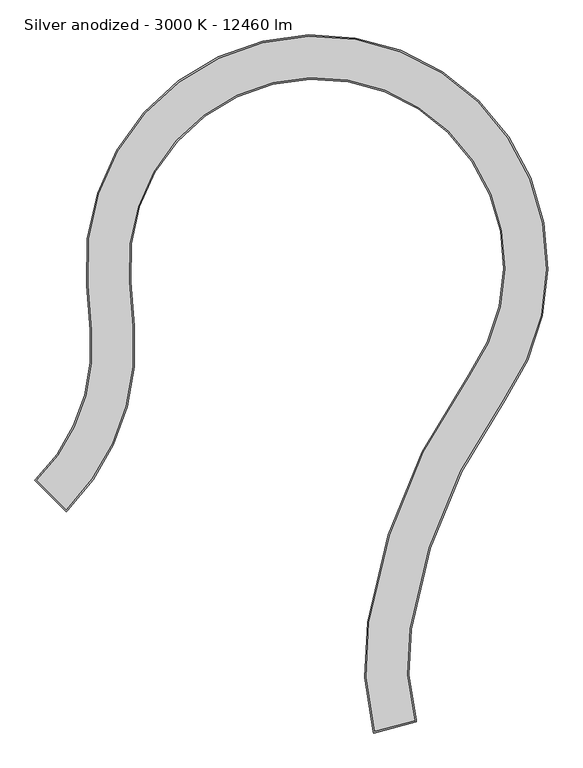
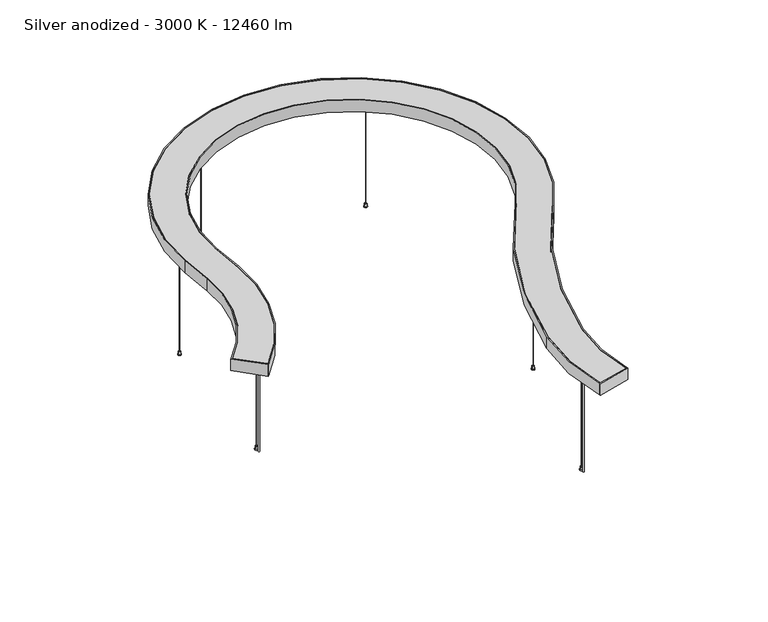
"""IFC4 building model written with IfcOpenShell, lengths in millimetres: light fixture geometry, KLUŚ - MIFOR - MI-SNAKE-05 : Silver anodized - 3000 K - 12460 lm."""

from ifc_helpers import new_model, si_unit, point, frame, frame_2d, origin, origin_with_axes, origin_2d, place, context, project, spatial, polyline, circle_curve, trimmed, segment, composite_curve, outline, extrude, source, transform, mapped, element, save


def silver_anodized_3000_k_12460_lm_a8d2e16b(model_context):
    return source(origin(), model_context, "Body", "SweptSolid", [
        extrude(outline(composite_curve([segment(trimmed(circle_curve(frame_2d((-781.0905266, -618.5597251)), 1.75), [point((-779.3405266, -618.5597251))], [point((-782.8405266, -618.5597251))], False, "CARTESIAN"), True, "CONTINUOUS"), segment(trimmed(circle_curve(frame_2d((-781.0905266, -618.5597251)), 1.75), [point((-782.8405266, -618.5597251))], [point((-779.3405266, -618.5597251))], False, "CARTESIAN"), True, "CONTINUOUS")], self_intersect=False)), frame((0.0, 0.0, 500.5), z_axis=(0.0, 0.0, 1.0), x_axis=(1.0, 0.0, 0.0)), (0.0, 0.0, 1.0), 3.5),
        extrude(outline(composite_curve([segment(trimmed(circle_curve(frame_2d((-719.5118859, 81.4826836)), 1.75), [point((-717.7618859, 81.4826836))], [point((-721.2618859, 81.4826836))], False, "CARTESIAN"), True, "CONTINUOUS"), segment(trimmed(circle_curve(frame_2d((-719.5118859, 81.4826836)), 1.75), [point((-721.2618859, 81.4826836))], [point((-717.7618859, 81.4826836))], False, "CARTESIAN"), True, "CONTINUOUS")], self_intersect=False)), frame((0.0, 0.0, 500.5), z_axis=(0.0, 0.0, 1.0), x_axis=(1.0, 0.0, 0.0)), (0.0, 0.0, 1.0), 3.5),
        extrude(outline(composite_curve([segment(trimmed(circle_curve(frame_2d((-298.5396576, 644.1848126)), 1.75), [point((-296.7896576, 644.1848126))], [point((-300.2896576, 644.1848126))], False, "CARTESIAN"), True, "CONTINUOUS"), segment(trimmed(circle_curve(frame_2d((-298.5396576, 644.1848126)), 1.75), [point((-300.2896576, 644.1848126))], [point((-296.7896576, 644.1848126))], False, "CARTESIAN"), True, "CONTINUOUS")], self_intersect=False)), frame((0.0, 0.0, 500.5), z_axis=(0.0, 0.0, 1.0), x_axis=(1.0, 0.0, 0.0)), (0.0, 0.0, 1.0), 3.5),
        extrude(outline(composite_curve([segment(trimmed(circle_curve(frame_2d((401.7435349, 585.4076632)), 1.75), [point((403.4935349, 585.4076632))], [point((399.9935349, 585.4076632))], False, "CARTESIAN"), True, "CONTINUOUS"), segment(trimmed(circle_curve(frame_2d((401.7435349, 585.4076632)), 1.75), [point((399.9935349, 585.4076632))], [point((403.4935349, 585.4076632))], False, "CARTESIAN"), True, "CONTINUOUS")], self_intersect=False)), frame((0.0, 0.0, 500.5), z_axis=(0.0, 0.0, 1.0), x_axis=(1.0, 0.0, 0.0)), (0.0, 0.0, 1.0), 3.5),
        extrude(outline(composite_curve([segment(trimmed(circle_curve(frame_2d((708.4509127, -46.8754122)), 1.75), [point((710.2009127, -46.8754122))], [point((706.7009127, -46.8754122))], False, "CARTESIAN"), True, "CONTINUOUS"), segment(trimmed(circle_curve(frame_2d((708.4509127, -46.8754122)), 1.75), [point((706.7009127, -46.8754122))], [point((710.2009127, -46.8754122))], False, "CARTESIAN"), True, "CONTINUOUS")], self_intersect=False)), frame((0.0, 0.0, 500.5), z_axis=(0.0, 0.0, 1.0), x_axis=(1.0, 0.0, 0.0)), (0.0, 0.0, 1.0), 3.5),
        extrude(outline(composite_curve([segment(trimmed(circle_curve(frame_2d((414.6132011, -685.2410615)), 1.75), [point((416.3632011, -685.2410615))], [point((412.8632011, -685.2410615))], False, "CARTESIAN"), True, "CONTINUOUS"), segment(trimmed(circle_curve(frame_2d((414.6132011, -685.2410615)), 1.75), [point((412.8632011, -685.2410615))], [point((416.3632011, -685.2410615))], False, "CARTESIAN"), True, "CONTINUOUS")], self_intersect=False)), frame((0.0, 0.0, 500.5), z_axis=(0.0, 0.0, 1.0), x_axis=(1.0, 0.0, 0.0)), (0.0, 0.0, 1.0), 3.5),
        extrude(outline(composite_curve([segment(trimmed(circle_curve(frame_2d((236.636067, -1365.0759259)), 1.75), [point((238.386067, -1365.0759259))], [point((234.886067, -1365.0759259))], False, "CARTESIAN"), True, "CONTINUOUS"), segment(trimmed(circle_curve(frame_2d((236.636067, -1365.0759259)), 1.75), [point((234.886067, -1365.0759259))], [point((238.386067, -1365.0759259))], False, "CARTESIAN"), True, "CONTINUOUS")], self_intersect=False)), frame((0.0, 0.0, 500.5), z_axis=(0.0, 0.0, 1.0), x_axis=(1.0, 0.0, 0.0)), (0.0, 0.0, 1.0), 3.5),
        extrude(outline(composite_curve([segment(trimmed(circle_curve(frame_2d((-781.0905266, -618.5597251)), 5.0), [point((-776.0905266, -618.5597251))], [point((-786.0905266, -618.5597251))], False, "CARTESIAN"), True, "CONTINUOUS"), segment(trimmed(circle_curve(frame_2d((-781.0905266, -618.5597251)), 5.0), [point((-786.0905266, -618.5597251))], [point((-776.0905266, -618.5597251))], False, "CARTESIAN"), True, "CONTINUOUS")], self_intersect=False)), frame((0.0, 0.0, 3.0), z_axis=(0.0, 0.0, 1.0), x_axis=(1.0, 0.0, 0.0)), (0.0, 0.0, 1.0), 12.0),
        extrude(outline(composite_curve([segment(trimmed(circle_curve(frame_2d((-719.5118859, 81.4826836)), 5.0), [point((-714.5118859, 81.4826836))], [point((-724.5118859, 81.4826836))], False, "CARTESIAN"), True, "CONTINUOUS"), segment(trimmed(circle_curve(frame_2d((-719.5118859, 81.4826836)), 5.0), [point((-724.5118859, 81.4826836))], [point((-714.5118859, 81.4826836))], False, "CARTESIAN"), True, "CONTINUOUS")], self_intersect=False)), frame((0.0, 0.0, 3.0), z_axis=(0.0, 0.0, 1.0), x_axis=(1.0, 0.0, 0.0)), (0.0, 0.0, 1.0), 12.0),
        extrude(outline(composite_curve([segment(trimmed(circle_curve(frame_2d((-298.5396576, 644.1848126)), 5.0), [point((-293.5396576, 644.1848126))], [point((-303.5396576, 644.1848126))], False, "CARTESIAN"), True, "CONTINUOUS"), segment(trimmed(circle_curve(frame_2d((-298.5396576, 644.1848126)), 5.0), [point((-303.5396576, 644.1848126))], [point((-293.5396576, 644.1848126))], False, "CARTESIAN"), True, "CONTINUOUS")], self_intersect=False)), frame((0.0, 0.0, 3.0), z_axis=(0.0, 0.0, 1.0), x_axis=(1.0, 0.0, 0.0)), (0.0, 0.0, 1.0), 12.0),
        extrude(outline(composite_curve([segment(trimmed(circle_curve(frame_2d((401.7435349, 585.4076632)), 5.0), [point((406.7435349, 585.4076632))], [point((396.7435349, 585.4076632))], False, "CARTESIAN"), True, "CONTINUOUS"), segment(trimmed(circle_curve(frame_2d((401.7435349, 585.4076632)), 5.0), [point((396.7435349, 585.4076632))], [point((406.7435349, 585.4076632))], False, "CARTESIAN"), True, "CONTINUOUS")], self_intersect=False)), frame((0.0, 0.0, 3.0), z_axis=(0.0, 0.0, 1.0), x_axis=(1.0, 0.0, 0.0)), (0.0, 0.0, 1.0), 12.0),
        extrude(outline(composite_curve([segment(trimmed(circle_curve(frame_2d((708.4509127, -46.8754122)), 5.0), [point((713.4509127, -46.8754122))], [point((703.4509127, -46.8754122))], False, "CARTESIAN"), True, "CONTINUOUS"), segment(trimmed(circle_curve(frame_2d((708.4509127, -46.8754122)), 5.0), [point((703.4509127, -46.8754122))], [point((713.4509127, -46.8754122))], False, "CARTESIAN"), True, "CONTINUOUS")], self_intersect=False)), frame((0.0, 0.0, 3.0), z_axis=(0.0, 0.0, 1.0), x_axis=(1.0, 0.0, 0.0)), (0.0, 0.0, 1.0), 12.0),
        extrude(outline(composite_curve([segment(trimmed(circle_curve(frame_2d((414.6132011, -685.2410615)), 5.0), [point((419.6132011, -685.2410615))], [point((409.6132011, -685.2410615))], False, "CARTESIAN"), True, "CONTINUOUS"), segment(trimmed(circle_curve(frame_2d((414.6132011, -685.2410615)), 5.0), [point((409.6132011, -685.2410615))], [point((419.6132011, -685.2410615))], False, "CARTESIAN"), True, "CONTINUOUS")], self_intersect=False)), frame((0.0, 0.0, 3.0), z_axis=(0.0, 0.0, 1.0), x_axis=(1.0, 0.0, 0.0)), (0.0, 0.0, 1.0), 12.0),
        extrude(outline(composite_curve([segment(trimmed(circle_curve(frame_2d((236.636067, -1365.0759259)), 5.0), [point((241.636067, -1365.0759259))], [point((231.636067, -1365.0759259))], False, "CARTESIAN"), True, "CONTINUOUS"), segment(trimmed(circle_curve(frame_2d((236.636067, -1365.0759259)), 5.0), [point((231.636067, -1365.0759259))], [point((241.636067, -1365.0759259))], False, "CARTESIAN"), True, "CONTINUOUS")], self_intersect=False)), frame((0.0, 0.0, 3.0), z_axis=(0.0, 0.0, 1.0), x_axis=(1.0, 0.0, 0.0)), (0.0, 0.0, 1.0), 12.0),
        extrude(outline(composite_curve([segment(trimmed(circle_curve(frame_2d((-779.194815, -636.1125112)), 2.5), [point((-776.694815, -636.1125112))], [point((-781.694815, -636.1125112))], False, "CARTESIAN"), True, "CONTINUOUS"), segment(trimmed(circle_curve(frame_2d((-779.194815, -636.1125112)), 2.5), [point((-781.694815, -636.1125112))], [point((-776.694815, -636.1125112))], False, "CARTESIAN"), True, "CONTINUOUS")], self_intersect=False)), origin_with_axes(), (0.0, 0.0, 1.0), 516.0),
        extrude(outline(composite_curve([segment(trimmed(circle_curve(frame_2d((237.1731552, -1380.5712872)), 2.5), [point((239.6731552, -1380.5712872))], [point((234.6731552, -1380.5712872))], False, "CARTESIAN"), True, "CONTINUOUS"), segment(trimmed(circle_curve(frame_2d((237.1731552, -1380.5712872)), 2.5), [point((234.6731552, -1380.5712872))], [point((239.6731552, -1380.5712872))], False, "CARTESIAN"), True, "CONTINUOUS")], self_intersect=False)), origin_with_axes(), (0.0, 0.0, 1.0), 516.0),
        extrude(outline(composite_curve([segment(trimmed(circle_curve(origin_2d(), 780.0), [point((-777.1855644, -66.2011969))], [point((633.4228309, -455.1653736))], False, "CARTESIAN"), True, "CONTINUOUS"), segment(trimmed(circle_curve(frame_2d((2099.2282279, -1508.4647318)), 1805.0), [point((633.4228309, -455.1653736))], [point((315.3433707, -1233.1833919))], True, "CARTESIAN"), True, "CONTINUOUS"), segment(trimmed(circle_curve(frame_2d((1064.5004473, -1348.7900483)), 758.024554), [point((315.3433707, -1233.1833919))], [point((332.3049537, -1544.9812396))], True, "CARTESIAN"), True, "CONTINUOUS"), segment(polyline([(332.3049537, -1544.9812396), (197.075338, -1581.2159059)]), True, "CONTINUOUS"), segment(trimmed(circle_curve(frame_2d((1064.5004473, -1348.7900483)), 898.024554), [point((197.075338, -1581.2159059))], [point((176.9811103, -1211.8319306))], False, "CARTESIAN"), True, "CONTINUOUS"), segment(trimmed(circle_curve(frame_2d((2099.2282279, -1508.4647318)), 1945.0), [point((176.9811103, -1211.8319306))], [point((519.7315535, -373.4690245))], False, "CARTESIAN"), True, "CONTINUOUS"), segment(trimmed(circle_curve(origin_2d(), 640.0), [point((519.7315535, -373.4690245))], [point((-637.6907195, -54.3189308))], True, "CARTESIAN"), True, "CONTINUOUS"), segment(polyline([(-637.6907195, -54.3189308), (-624.7565051, -206.1633874)]), True, "CONTINUOUS"), segment(trimmed(circle_curve(frame_2d((-1406.9240282, -272.788951)), 785.0), [point((-624.7565051, -206.1633874))], [point((-851.845205, -827.8677742))], False, "CARTESIAN"), True, "CONTINUOUS"), segment(polyline([(-851.845205, -827.8677742), (-950.8401543, -728.8728248)]), True, "CONTINUOUS"), segment(trimmed(circle_curve(frame_2d((-1406.9240282, -272.788951)), 645.0), [point((-950.8401543, -728.8728248))], [point((-764.2513499, -218.0456535))], True, "CARTESIAN"), True, "CONTINUOUS"), segment(polyline([(-764.2513499, -218.0456535), (-777.1855644, -66.2011969)]), True, "CONTINUOUS")], self_intersect=False)), frame((0.0, 0.0, 516.0), z_axis=(0.0, 0.0, 1.0), x_axis=(1.0, 0.0, 0.0)), (0.0, 0.0, 1.0), 2.0),
        extrude(outline(composite_curve([segment(trimmed(circle_curve(origin_2d(), 780.0), [point((-777.1855644, -66.2011969))], [point((633.4228309, -455.1653736))], False, "CARTESIAN"), True, "CONTINUOUS"), segment(trimmed(circle_curve(frame_2d((2099.2282279, -1508.4647318)), 1805.0), [point((633.4228309, -455.1653736))], [point((315.3433707, -1233.1833919))], True, "CARTESIAN"), True, "CONTINUOUS"), segment(trimmed(circle_curve(frame_2d((1064.5004473, -1348.7900483)), 758.024554), [point((315.3433707, -1233.1833919))], [point((332.3049537, -1544.9812396))], True, "CARTESIAN"), True, "CONTINUOUS"), segment(polyline([(332.3049537, -1544.9812396), (197.075338, -1581.2159059)]), True, "CONTINUOUS"), segment(trimmed(circle_curve(frame_2d((1064.5004473, -1348.7900483)), 898.024554), [point((197.075338, -1581.2159059))], [point((176.9811103, -1211.8319306))], False, "CARTESIAN"), True, "CONTINUOUS"), segment(trimmed(circle_curve(frame_2d((2099.2282279, -1508.4647318)), 1945.0), [point((176.9811103, -1211.8319306))], [point((519.7315535, -373.4690245))], False, "CARTESIAN"), True, "CONTINUOUS"), segment(trimmed(circle_curve(origin_2d(), 640.0), [point((519.7315535, -373.4690245))], [point((-637.6907195, -54.3189308))], True, "CARTESIAN"), True, "CONTINUOUS"), segment(polyline([(-637.6907195, -54.3189308), (-624.7565051, -206.1633874)]), True, "CONTINUOUS"), segment(trimmed(circle_curve(frame_2d((-1406.9240282, -272.788951)), 785.0), [point((-624.7565051, -206.1633874))], [point((-851.845205, -827.8677742))], False, "CARTESIAN"), True, "CONTINUOUS"), segment(polyline([(-851.845205, -827.8677742), (-950.8401543, -728.8728248)]), True, "CONTINUOUS"), segment(trimmed(circle_curve(frame_2d((-1406.9240282, -272.788951)), 645.0), [point((-950.8401543, -728.8728248))], [point((-764.2513499, -218.0456535))], True, "CARTESIAN"), True, "CONTINUOUS"), segment(polyline([(-764.2513499, -218.0456535), (-777.1855644, -66.2011969)]), True, "CONTINUOUS")], self_intersect=False)), frame((0.0, 0.0, 551.0), z_axis=(0.0, 0.0, 1.0), x_axis=(1.0, 0.0, 0.0)), (0.0, 0.0, 1.0), 2.0),
        extrude(outline(composite_curve([segment(trimmed(circle_curve(origin_2d(), 785.0), [point((-782.1675232, -66.6255635))], [point((637.4832336, -458.0831004))], False, "CARTESIAN"), True, "CONTINUOUS"), segment(trimmed(circle_curve(frame_2d((2099.2282279, -1508.4647318)), 1800.0), [point((637.4832336, -458.0831004))], [point((320.28488, -1233.945944))], True, "CARTESIAN"), True, "CONTINUOUS"), segment(trimmed(circle_curve(frame_2d((1064.5004473, -1348.7900483)), 753.024554), [point((320.28488, -1233.945944))], [point((337.1345828, -1543.6871443))], True, "CARTESIAN"), True, "CONTINUOUS"), segment(polyline([(337.1345828, -1543.6871443), (338.428678, -1548.5167735), (193.5398041, -1587.3396302), (192.2457088, -1582.5100011)]), True, "CONTINUOUS"), segment(trimmed(circle_curve(frame_2d((1064.5004473, -1348.7900483)), 903.024554), [point((192.2457088, -1582.5100011))], [point((172.039601, -1211.0693784))], False, "CARTESIAN"), True, "CONTINUOUS"), segment(trimmed(circle_curve(frame_2d((2099.2282279, -1508.4647318)), 1950.0), [point((172.039601, -1211.0693784))], [point((515.6711508, -370.5512977))], False, "CARTESIAN"), True, "CONTINUOUS"), segment(trimmed(circle_curve(origin_2d(), 635.0), [point((515.6711508, -370.5512977))], [point((-632.7087608, -53.8945641))], True, "CARTESIAN"), True, "CONTINUOUS"), segment(polyline([(-632.7087608, -53.8945641), (-619.7745463, -205.7390208)]), True, "CONTINUOUS"), segment(trimmed(circle_curve(frame_2d((-1406.9240282, -272.788951)), 790.0), [point((-619.7745463, -205.7390208))], [point((-848.3096711, -831.4033081))], False, "CARTESIAN"), True, "CONTINUOUS"), segment(polyline([(-848.3096711, -831.4033081), (-851.845205, -834.938842), (-957.9112222, -728.8728248), (-954.3756883, -725.3372909)]), True, "CONTINUOUS"), segment(trimmed(circle_curve(frame_2d((-1406.9240282, -272.788951)), 640.0), [point((-954.3756883, -725.3372909))], [point((-769.2333087, -218.4700202))], True, "CARTESIAN"), True, "CONTINUOUS"), segment(polyline([(-769.2333087, -218.4700202), (-782.1675232, -66.6255635)]), True, "CONTINUOUS")], self_intersect=False), holes=[composite_curve([segment(trimmed(circle_curve(frame_2d((-1406.9240282, -272.788951)), 785.0), [point((-851.845205, -827.8677742))], [point((-624.7565051, -206.1633874))], True, "CARTESIAN"), True, "CONTINUOUS"), segment(polyline([(-624.7565051, -206.1633874), (-637.6907195, -54.3189308)]), True, "CONTINUOUS"), segment(trimmed(circle_curve(origin_2d(), 640.0), [point((-637.6907195, -54.3189308))], [point((519.7315535, -373.4690245))], False, "CARTESIAN"), True, "CONTINUOUS"), segment(trimmed(circle_curve(frame_2d((2099.2282279, -1508.4647318)), 1945.0), [point((519.7315535, -373.4690245))], [point((176.9811103, -1211.8319306))], True, "CARTESIAN"), True, "CONTINUOUS"), segment(trimmed(circle_curve(frame_2d((1064.5004473, -1348.7900483)), 898.024554), [point((176.9811103, -1211.8319306))], [point((197.075338, -1581.2159059))], True, "CARTESIAN"), True, "CONTINUOUS"), segment(polyline([(197.075338, -1581.2159059), (332.3049537, -1544.9812396)]), True, "CONTINUOUS"), segment(trimmed(circle_curve(frame_2d((1064.5004473, -1348.7900483)), 758.024554), [point((332.3049537, -1544.9812396))], [point((315.3433707, -1233.1833919))], False, "CARTESIAN"), True, "CONTINUOUS"), segment(trimmed(circle_curve(frame_2d((2099.2282279, -1508.4647318)), 1805.0), [point((315.3433707, -1233.1833919))], [point((633.4228309, -455.1653736))], False, "CARTESIAN"), True, "CONTINUOUS"), segment(trimmed(circle_curve(origin_2d(), 780.0), [point((633.4228309, -455.1653736))], [point((-777.1855644, -66.2011969))], True, "CARTESIAN"), True, "CONTINUOUS"), segment(polyline([(-777.1855644, -66.2011969), (-764.2513499, -218.0456535)]), True, "CONTINUOUS"), segment(trimmed(circle_curve(frame_2d((-1406.9240282, -272.788951)), 645.0), [point((-764.2513499, -218.0456535))], [point((-950.8401543, -728.8728248))], False, "CARTESIAN"), True, "CONTINUOUS"), segment(polyline([(-950.8401543, -728.8728248), (-851.845205, -827.8677742)]), True, "CONTINUOUS")], self_intersect=False)]), frame((0.0, 0.0, 500.0), z_axis=(0.0, 0.0, 1.0), x_axis=(1.0, 0.0, 0.0)), (0.0, 0.0, 1.0), 55.0),
        extrude(outline(composite_curve([segment(trimmed(circle_curve(frame_2d((-781.0905266, -618.5597251)), 0.5), [point((-780.5905266, -618.5597251))], [point((-781.5905266, -618.5597251))], False, "CARTESIAN"), True, "CONTINUOUS"), segment(trimmed(circle_curve(frame_2d((-781.0905266, -618.5597251)), 0.5), [point((-781.5905266, -618.5597251))], [point((-780.5905266, -618.5597251))], False, "CARTESIAN"), True, "CONTINUOUS")], self_intersect=False)), frame((0.0, 0.0, 15.0), z_axis=(0.0, 0.0, 1.0), x_axis=(1.0, 0.0, 0.0)), (0.0, 0.0, 1.0), 485.5),
        extrude(outline(composite_curve([segment(trimmed(circle_curve(frame_2d((-719.5118859, 81.4826836)), 0.5), [point((-719.0118859, 81.4826836))], [point((-720.0118859, 81.4826836))], False, "CARTESIAN"), True, "CONTINUOUS"), segment(trimmed(circle_curve(frame_2d((-719.5118859, 81.4826836)), 0.5), [point((-720.0118859, 81.4826836))], [point((-719.0118859, 81.4826836))], False, "CARTESIAN"), True, "CONTINUOUS")], self_intersect=False)), frame((0.0, 0.0, 15.0), z_axis=(0.0, 0.0, 1.0), x_axis=(1.0, 0.0, 0.0)), (0.0, 0.0, 1.0), 485.5),
        extrude(outline(composite_curve([segment(trimmed(circle_curve(frame_2d((-298.5396576, 644.1848126)), 0.5), [point((-298.0396576, 644.1848126))], [point((-299.0396576, 644.1848126))], False, "CARTESIAN"), True, "CONTINUOUS"), segment(trimmed(circle_curve(frame_2d((-298.5396576, 644.1848126)), 0.5), [point((-299.0396576, 644.1848126))], [point((-298.0396576, 644.1848126))], False, "CARTESIAN"), True, "CONTINUOUS")], self_intersect=False)), frame((0.0, 0.0, 15.0), z_axis=(0.0, 0.0, 1.0), x_axis=(1.0, 0.0, 0.0)), (0.0, 0.0, 1.0), 485.5),
        extrude(outline(composite_curve([segment(trimmed(circle_curve(frame_2d((401.7435349, 585.4076632)), 0.5), [point((402.2435349, 585.4076632))], [point((401.2435349, 585.4076632))], False, "CARTESIAN"), True, "CONTINUOUS"), segment(trimmed(circle_curve(frame_2d((401.7435349, 585.4076632)), 0.5), [point((401.2435349, 585.4076632))], [point((402.2435349, 585.4076632))], False, "CARTESIAN"), True, "CONTINUOUS")], self_intersect=False)), frame((0.0, 0.0, 15.0), z_axis=(0.0, 0.0, 1.0), x_axis=(1.0, 0.0, 0.0)), (0.0, 0.0, 1.0), 485.5),
        extrude(outline(composite_curve([segment(trimmed(circle_curve(frame_2d((708.4509127, -46.8754122)), 0.5), [point((708.9509127, -46.8754122))], [point((707.9509127, -46.8754122))], False, "CARTESIAN"), True, "CONTINUOUS"), segment(trimmed(circle_curve(frame_2d((708.4509127, -46.8754122)), 0.5), [point((707.9509127, -46.8754122))], [point((708.9509127, -46.8754122))], False, "CARTESIAN"), True, "CONTINUOUS")], self_intersect=False)), frame((0.0, 0.0, 15.0), z_axis=(0.0, 0.0, 1.0), x_axis=(1.0, 0.0, 0.0)), (0.0, 0.0, 1.0), 485.5),
        extrude(outline(composite_curve([segment(trimmed(circle_curve(frame_2d((414.6132011, -685.2410615)), 0.5), [point((415.1132011, -685.2410615))], [point((414.1132011, -685.2410615))], False, "CARTESIAN"), True, "CONTINUOUS"), segment(trimmed(circle_curve(frame_2d((414.6132011, -685.2410615)), 0.5), [point((414.1132011, -685.2410615))], [point((415.1132011, -685.2410615))], False, "CARTESIAN"), True, "CONTINUOUS")], self_intersect=False)), frame((0.0, 0.0, 15.0), z_axis=(0.0, 0.0, 1.0), x_axis=(1.0, 0.0, 0.0)), (0.0, 0.0, 1.0), 485.5),
        extrude(outline(composite_curve([segment(trimmed(circle_curve(frame_2d((236.636067, -1365.0759259)), 0.5), [point((237.136067, -1365.0759259))], [point((236.136067, -1365.0759259))], False, "CARTESIAN"), True, "CONTINUOUS"), segment(trimmed(circle_curve(frame_2d((236.636067, -1365.0759259)), 0.5), [point((236.136067, -1365.0759259))], [point((237.136067, -1365.0759259))], False, "CARTESIAN"), True, "CONTINUOUS")], self_intersect=False)), frame((0.0, 0.0, 15.0), z_axis=(0.0, 0.0, 1.0), x_axis=(1.0, 0.0, 0.0)), (0.0, 0.0, 1.0), 485.5),
        extrude(outline(composite_curve([segment(trimmed(circle_curve(frame_2d((-781.0905266, -618.5597251)), 4.0), [point((-777.0905266, -618.5597251))], [point((-785.0905266, -618.5597251))], False, "CARTESIAN"), True, "CONTINUOUS"), segment(trimmed(circle_curve(frame_2d((-781.0905266, -618.5597251)), 4.0), [point((-785.0905266, -618.5597251))], [point((-777.0905266, -618.5597251))], False, "CARTESIAN"), True, "CONTINUOUS")], self_intersect=False)), frame((0.0, 0.0, 504.0), z_axis=(0.0, 0.0, 1.0), x_axis=(1.0, 0.0, 0.0)), (0.0, 0.0, 1.0), 12.0),
        extrude(outline(composite_curve([segment(trimmed(circle_curve(frame_2d((-719.5118859, 81.4826836)), 4.0), [point((-715.5118859, 81.4826836))], [point((-723.5118859, 81.4826836))], False, "CARTESIAN"), True, "CONTINUOUS"), segment(trimmed(circle_curve(frame_2d((-719.5118859, 81.4826836)), 4.0), [point((-723.5118859, 81.4826836))], [point((-715.5118859, 81.4826836))], False, "CARTESIAN"), True, "CONTINUOUS")], self_intersect=False)), frame((0.0, 0.0, 504.0), z_axis=(0.0, 0.0, 1.0), x_axis=(1.0, 0.0, 0.0)), (0.0, 0.0, 1.0), 12.0),
        extrude(outline(composite_curve([segment(trimmed(circle_curve(frame_2d((-298.5396576, 644.1848126)), 4.0), [point((-294.5396576, 644.1848126))], [point((-302.5396576, 644.1848126))], False, "CARTESIAN"), True, "CONTINUOUS"), segment(trimmed(circle_curve(frame_2d((-298.5396576, 644.1848126)), 4.0), [point((-302.5396576, 644.1848126))], [point((-294.5396576, 644.1848126))], False, "CARTESIAN"), True, "CONTINUOUS")], self_intersect=False)), frame((0.0, 0.0, 504.0), z_axis=(0.0, 0.0, 1.0), x_axis=(1.0, 0.0, 0.0)), (0.0, 0.0, 1.0), 12.0),
        extrude(outline(composite_curve([segment(trimmed(circle_curve(frame_2d((401.7435349, 585.4076632)), 4.0), [point((405.7435349, 585.4076632))], [point((397.7435349, 585.4076632))], False, "CARTESIAN"), True, "CONTINUOUS"), segment(trimmed(circle_curve(frame_2d((401.7435349, 585.4076632)), 4.0), [point((397.7435349, 585.4076632))], [point((405.7435349, 585.4076632))], False, "CARTESIAN"), True, "CONTINUOUS")], self_intersect=False)), frame((0.0, 0.0, 504.0), z_axis=(0.0, 0.0, 1.0), x_axis=(1.0, 0.0, 0.0)), (0.0, 0.0, 1.0), 12.0),
        extrude(outline(composite_curve([segment(trimmed(circle_curve(frame_2d((708.4509127, -46.8754122)), 4.0), [point((712.4509127, -46.8754122))], [point((704.4509127, -46.8754122))], False, "CARTESIAN"), True, "CONTINUOUS"), segment(trimmed(circle_curve(frame_2d((708.4509127, -46.8754122)), 4.0), [point((704.4509127, -46.8754122))], [point((712.4509127, -46.8754122))], False, "CARTESIAN"), True, "CONTINUOUS")], self_intersect=False)), frame((0.0, 0.0, 504.0), z_axis=(0.0, 0.0, 1.0), x_axis=(1.0, 0.0, 0.0)), (0.0, 0.0, 1.0), 12.0),
        extrude(outline(composite_curve([segment(trimmed(circle_curve(frame_2d((414.6132011, -685.2410615)), 4.0), [point((418.6132011, -685.2410615))], [point((410.6132011, -685.2410615))], False, "CARTESIAN"), True, "CONTINUOUS"), segment(trimmed(circle_curve(frame_2d((414.6132011, -685.2410615)), 4.0), [point((410.6132011, -685.2410615))], [point((418.6132011, -685.2410615))], False, "CARTESIAN"), True, "CONTINUOUS")], self_intersect=False)), frame((0.0, 0.0, 504.0), z_axis=(0.0, 0.0, 1.0), x_axis=(1.0, 0.0, 0.0)), (0.0, 0.0, 1.0), 12.0),
        extrude(outline(composite_curve([segment(trimmed(circle_curve(frame_2d((236.636067, -1365.0759259)), 4.0), [point((240.636067, -1365.0759259))], [point((232.636067, -1365.0759259))], False, "CARTESIAN"), True, "CONTINUOUS"), segment(trimmed(circle_curve(frame_2d((236.636067, -1365.0759259)), 4.0), [point((232.636067, -1365.0759259))], [point((240.636067, -1365.0759259))], False, "CARTESIAN"), True, "CONTINUOUS")], self_intersect=False)), frame((0.0, 0.0, 504.0), z_axis=(0.0, 0.0, 1.0), x_axis=(1.0, 0.0, 0.0)), (0.0, 0.0, 1.0), 12.0),
        extrude(outline(composite_curve([segment(trimmed(circle_curve(frame_2d((-781.0905266, -618.5597251)), 7.0), [point((-774.0905266, -618.5597251))], [point((-788.0905266, -618.5597251))], False, "CARTESIAN"), True, "CONTINUOUS"), segment(trimmed(circle_curve(frame_2d((-781.0905266, -618.5597251)), 7.0), [point((-788.0905266, -618.5597251))], [point((-774.0905266, -618.5597251))], False, "CARTESIAN"), True, "CONTINUOUS")], self_intersect=False)), origin_with_axes(), (0.0, 0.0, 1.0), 3.0),
        extrude(outline(composite_curve([segment(trimmed(circle_curve(frame_2d((-719.5118859, 81.4826836)), 7.0), [point((-712.5118859, 81.4826836))], [point((-726.5118859, 81.4826836))], False, "CARTESIAN"), True, "CONTINUOUS"), segment(trimmed(circle_curve(frame_2d((-719.5118859, 81.4826836)), 7.0), [point((-726.5118859, 81.4826836))], [point((-712.5118859, 81.4826836))], False, "CARTESIAN"), True, "CONTINUOUS")], self_intersect=False)), origin_with_axes(), (0.0, 0.0, 1.0), 3.0),
        extrude(outline(composite_curve([segment(trimmed(circle_curve(frame_2d((-298.5396576, 644.1848126)), 7.0), [point((-291.5396576, 644.1848126))], [point((-305.5396576, 644.1848126))], False, "CARTESIAN"), True, "CONTINUOUS"), segment(trimmed(circle_curve(frame_2d((-298.5396576, 644.1848126)), 7.0), [point((-305.5396576, 644.1848126))], [point((-291.5396576, 644.1848126))], False, "CARTESIAN"), True, "CONTINUOUS")], self_intersect=False)), origin_with_axes(), (0.0, 0.0, 1.0), 3.0),
        extrude(outline(composite_curve([segment(trimmed(circle_curve(frame_2d((401.7435349, 585.4076632)), 7.0), [point((408.7435349, 585.4076632))], [point((394.7435349, 585.4076632))], False, "CARTESIAN"), True, "CONTINUOUS"), segment(trimmed(circle_curve(frame_2d((401.7435349, 585.4076632)), 7.0), [point((394.7435349, 585.4076632))], [point((408.7435349, 585.4076632))], False, "CARTESIAN"), True, "CONTINUOUS")], self_intersect=False)), origin_with_axes(), (0.0, 0.0, 1.0), 3.0),
        extrude(outline(composite_curve([segment(trimmed(circle_curve(frame_2d((708.4509127, -46.8754122)), 7.0), [point((715.4509127, -46.8754122))], [point((701.4509127, -46.8754122))], False, "CARTESIAN"), True, "CONTINUOUS"), segment(trimmed(circle_curve(frame_2d((708.4509127, -46.8754122)), 7.0), [point((701.4509127, -46.8754122))], [point((715.4509127, -46.8754122))], False, "CARTESIAN"), True, "CONTINUOUS")], self_intersect=False)), origin_with_axes(), (0.0, 0.0, 1.0), 3.0),
        extrude(outline(composite_curve([segment(trimmed(circle_curve(frame_2d((414.6132011, -685.2410615)), 7.0), [point((421.6132011, -685.2410615))], [point((407.6132011, -685.2410615))], False, "CARTESIAN"), True, "CONTINUOUS"), segment(trimmed(circle_curve(frame_2d((414.6132011, -685.2410615)), 7.0), [point((407.6132011, -685.2410615))], [point((421.6132011, -685.2410615))], False, "CARTESIAN"), True, "CONTINUOUS")], self_intersect=False)), origin_with_axes(), (0.0, 0.0, 1.0), 3.0),
        extrude(outline(composite_curve([segment(trimmed(circle_curve(frame_2d((236.636067, -1365.0759259)), 7.0), [point((243.636067, -1365.0759259))], [point((229.636067, -1365.0759259))], False, "CARTESIAN"), True, "CONTINUOUS"), segment(trimmed(circle_curve(frame_2d((236.636067, -1365.0759259)), 7.0), [point((229.636067, -1365.0759259))], [point((243.636067, -1365.0759259))], False, "CARTESIAN"), True, "CONTINUOUS")], self_intersect=False)), origin_with_axes(), (0.0, 0.0, 1.0), 3.0),
    ])


if __name__ == "__main__":
    model = new_model("IFC4")
    model_context = context("Model", 3, world=origin())
    ifc_project = project(units=[si_unit("LENGTHUNIT", "METRE", prefix="MILLI")], contexts=[model_context])
    site = spatial("IfcSite", under=ifc_project)
    building = spatial("IfcBuilding", under=site)
    placement = place(None, origin())
    silver_anodized_3000_k_12460_lm_shape = silver_anodized_3000_k_12460_lm_a8d2e16b(model_context)
    element("IfcLightFixture", 1, ObjectType="KLUŚ - MIFOR - MI-SNAKE-05 : Silver anodized - 3000 K - 12460 lm", at=placement, inside=building, context=model_context, shape_type="MappedRepresentation", body=[
        mapped(silver_anodized_3000_k_12460_lm_shape, transform((0.0, 0.0, 0.0), x_axis=(1.0, 0.0, 0.0), y_axis=(0.0, 1.0, 0.0), z_axis=(0.0, 0.0, 1.0))),
    ])
    save(model, "model.ifc")
